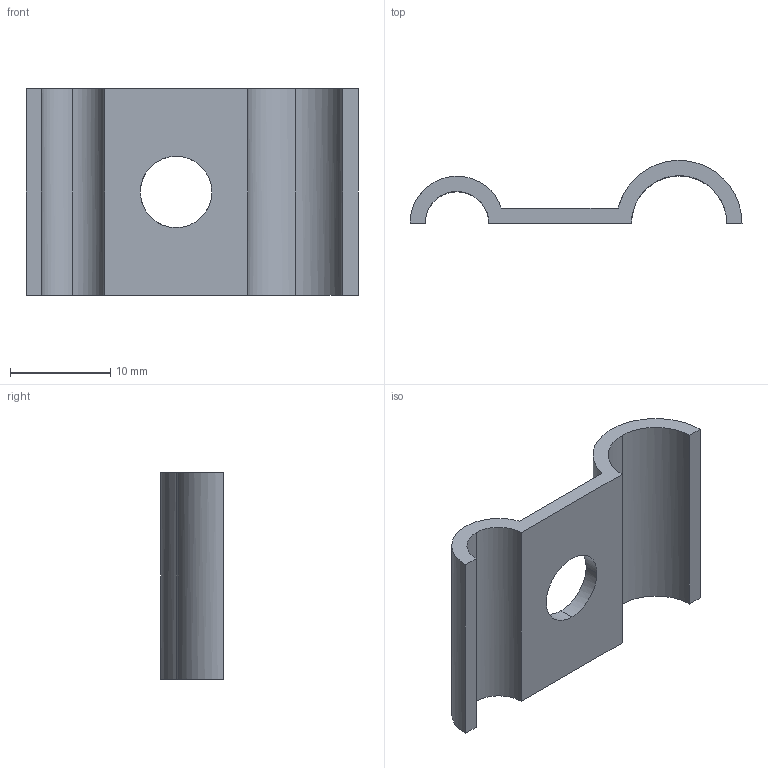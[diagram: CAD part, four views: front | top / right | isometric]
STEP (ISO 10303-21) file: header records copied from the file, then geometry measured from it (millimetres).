
FILE_DESCRIPTION(('TurboCAD Mac Pro'),'Build 980');
FILE_NAME('P6808.stp',' ',(''),(''),'ACIS Interop','IMSI','TurboCAD Mac Pro BY IMSI, INCORPORATED');
FILE_SCHEMA(('automotive_design'));
Length unit declared in the file: inch
Products named in the file (2): 1; 2
Bounding box: 33.18 x 6.28 x 20.64 mm (x, y, z)
Volume: 1229.4 mm3; surface area: 1839.3 mm2
Topology: 1 solids, 1 shells, 18 faces, 48 edges, 32 vertices
Faces by surface type: bspline 12, plane 6
Entity records: 966 total; most frequent: CARTESIAN_POINT 292, ORIENTED_EDGE 96, EDGE_CURVE 48, DIRECTION 44, B_SPLINE_CURVE_WITH_KNOTS 32, VERTEX_POINT 32, STYLED_ITEM 31, PRESENTATION_STYLE_ASSIGNMENT 31
